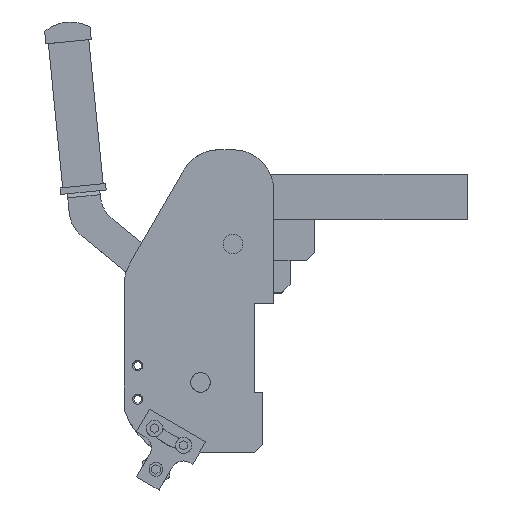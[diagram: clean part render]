
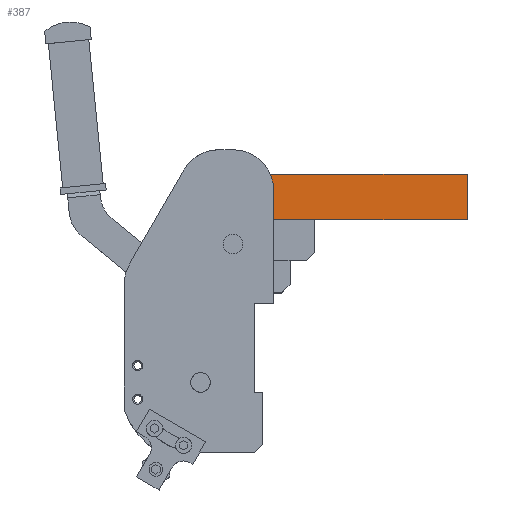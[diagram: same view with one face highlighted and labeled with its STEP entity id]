
A CAD part, top view. The second image highlights one B-rep face of the part: STEP entity #387.
In plain terms, the highlighted planar face has unit normal (0, 0, 1).
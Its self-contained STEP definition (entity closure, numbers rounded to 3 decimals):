
#131 = ORIENTED_EDGE ( 'NONE', *, *, #5810, .F. ) ;
#387 = ADVANCED_FACE ( 'NONE', ( #5927 ), #6537, .T. ) ;
#848 = VECTOR ( 'NONE', #3240, 1000. ) ;
#882 = CARTESIAN_POINT ( 'NONE',  ( 0., 28., 10. ) ) ;
#1262 = ORIENTED_EDGE ( 'NONE', *, *, #10475, .F. ) ;
#2093 = EDGE_LOOP ( 'NONE', ( #9691, #131, #8581, #1262 ) ) ;
#2435 = DIRECTION ( 'NONE',  ( 0., -1., 0. ) ) ;
#2437 = CARTESIAN_POINT ( 'NONE',  ( 0., 28., 10. ) ) ;
#2453 = LINE ( 'NONE', #2437, #4454 ) ;
#3240 = DIRECTION ( 'NONE',  ( 0., -1., 0. ) ) ;
#3243 = CARTESIAN_POINT ( 'NONE',  ( 129., 28., 10. ) ) ;
#3302 = LINE ( 'NONE', #3243, #848 ) ;
#3360 = EDGE_CURVE ( 'NONE', #8379, #8275, #3302, .T. ) ;
#4454 = VECTOR ( 'NONE', #2435, 1000. ) ;
#4491 = CARTESIAN_POINT ( 'NONE',  ( 129., 0., 10. ) ) ;
#5810 = EDGE_CURVE ( 'NONE', #8477, #8379, #6577, .T. ) ;
#5927 = FACE_OUTER_BOUND ( 'NONE', #2093, .T. ) ;
#6355 = EDGE_CURVE ( 'NONE', #8477, #8542, #2453, .T. ) ;
#6444 = DIRECTION ( 'NONE',  ( 1., 0., 0. ) ) ;
#6446 = DIRECTION ( 'NONE',  ( 0., 0., 1. ) ) ;
#6457 = CARTESIAN_POINT ( 'NONE',  ( 129., 28., 10. ) ) ;
#6531 = DIRECTION ( 'NONE',  ( 1., 0., 0. ) ) ;
#6537 = PLANE ( 'NONE',  #9810 ) ;
#6547 = CARTESIAN_POINT ( 'NONE',  ( 0., 28., 10. ) ) ;
#6577 = LINE ( 'NONE', #6547, #9695 ) ;
#6856 = CARTESIAN_POINT ( 'NONE',  ( 0., 0., 10. ) ) ;
#7220 = VECTOR ( 'NONE', #9211, 1000. ) ;
#8275 = VERTEX_POINT ( 'NONE', #4491 ) ;
#8379 = VERTEX_POINT ( 'NONE', #10849 ) ;
#8477 = VERTEX_POINT ( 'NONE', #882 ) ;
#8542 = VERTEX_POINT ( 'NONE', #6856 ) ;
#8581 = ORIENTED_EDGE ( 'NONE', *, *, #6355, .T. ) ;
#9211 = DIRECTION ( 'NONE',  ( -1., 0., 0. ) ) ;
#9691 = ORIENTED_EDGE ( 'NONE', *, *, #3360, .F. ) ;
#9695 = VECTOR ( 'NONE', #6531, 1000. ) ;
#9810 = AXIS2_PLACEMENT_3D ( 'NONE', #6457, #6446, #6444 ) ;
#10303 = CARTESIAN_POINT ( 'NONE',  ( 129., 0., 10. ) ) ;
#10475 = EDGE_CURVE ( 'NONE', #8275, #8542, #11474, .T. ) ;
#10849 = CARTESIAN_POINT ( 'NONE',  ( 129., 28., 10. ) ) ;
#11474 = LINE ( 'NONE', #10303, #7220 ) ;
